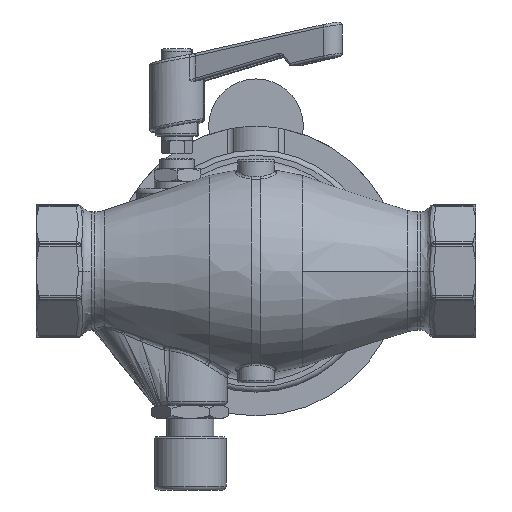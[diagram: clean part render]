
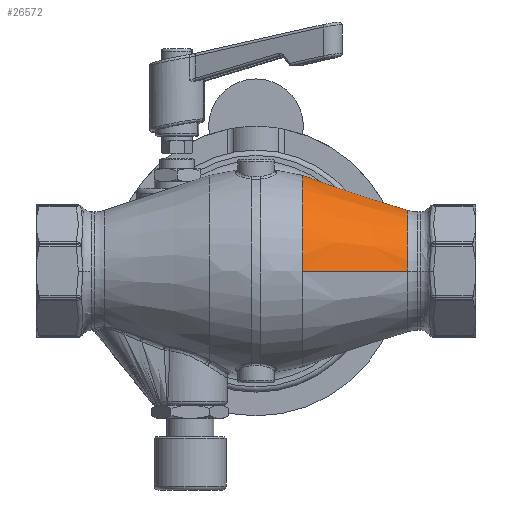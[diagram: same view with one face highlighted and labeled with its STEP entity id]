
A CAD part, front view. The second image highlights one B-rep face of the part: STEP entity #26572.
In plain terms, the highlighted conical face has half-angle 18.5 degrees and reference radius 29.799 mm.
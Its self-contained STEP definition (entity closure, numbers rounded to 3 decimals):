
#5674=CARTESIAN_POINT('',(17.723,14.637,33.413));
#5903=DIRECTION('',(-0.948,0.317,0.));
#5904=VECTOR('',#5903,14.573);
#5905=CARTESIAN_POINT('',(57.647,23.12,
0.));
#5906=LINE('',#5905,#5904);
#5990=DIRECTION('',(-0.948,-0.317,0.));
#5991=VECTOR('',#5990,42.1);
#5992=CARTESIAN_POINT('',(57.647,-23.12,
0.));
#5993=LINE('',#5992,#5991);
#6004=CARTESIAN_POINT('',(57.647,0.,0.));
#6005=DIRECTION('',(1.,0.,0.));
#6006=DIRECTION('',(0.,1.,0.));
#6007=AXIS2_PLACEMENT_3D('',#6004,#6005,#6006);
#6009=CARTESIAN_POINT('',(17.722,-36.479,
0.));
#6010=CARTESIAN_POINT('',(17.722,-36.479,
0.548));
#6011=CARTESIAN_POINT('',(17.722,-36.454,1.645));
#6012=CARTESIAN_POINT('',(17.722,-36.343,3.286));
#6013=CARTESIAN_POINT('',(17.722,-36.158,4.921));
#6014=CARTESIAN_POINT('',(17.722,-35.899,6.545));
#6015=CARTESIAN_POINT('',(17.722,-35.568,8.157));
#6016=CARTESIAN_POINT('',(17.722,-35.164,9.752));
#6017=CARTESIAN_POINT('',(17.722,-34.689,11.327));
#6018=CARTESIAN_POINT('',(17.722,-34.143,12.879));
#6019=CARTESIAN_POINT('',(17.722,-33.528,14.404));
#6020=CARTESIAN_POINT('',(17.722,-32.844,15.901));
#6021=CARTESIAN_POINT('',(17.722,-32.094,17.365));
#6022=CARTESIAN_POINT('',(17.722,-31.279,18.794));
#6023=CARTESIAN_POINT('',(17.722,-30.4,20.185));
#6024=CARTESIAN_POINT('',(17.722,-29.46,21.534));
#6025=CARTESIAN_POINT('',(17.722,-28.459,22.84));
#6026=CARTESIAN_POINT('',(17.722,-27.401,24.1));
#6027=CARTESIAN_POINT('',(17.722,-26.287,25.31));
#6028=CARTESIAN_POINT('',(17.722,-25.119,26.469));
#6029=CARTESIAN_POINT('',(17.722,-23.901,27.575));
#6030=CARTESIAN_POINT('',(17.722,-22.634,28.624));
#6031=CARTESIAN_POINT('',(17.722,-21.32,29.615));
#6032=CARTESIAN_POINT('',(17.722,-19.964,30.546));
#6033=CARTESIAN_POINT('',(17.722,-18.567,31.414));
#6034=CARTESIAN_POINT('',(17.722,-17.132,32.219));
#6035=CARTESIAN_POINT('',(17.722,-15.663,32.959));
#6036=CARTESIAN_POINT('',(17.722,-14.161,33.631));
#6037=CARTESIAN_POINT('',(17.722,-12.631,34.235));
#6038=CARTESIAN_POINT('',(17.722,-11.075,34.77));
#6039=CARTESIAN_POINT('',(17.722,-9.497,35.234));
#6040=CARTESIAN_POINT('',(17.722,-7.899,35.626));
#6041=CARTESIAN_POINT('',(17.722,-6.285,35.946));
#6042=CARTESIAN_POINT('',(17.722,-4.659,36.192));
#6043=CARTESIAN_POINT('',(17.722,-3.023,36.366));
#6044=CARTESIAN_POINT('',(17.722,-1.381,36.465));
#6045=CARTESIAN_POINT('',(17.722,0.264,36.49));
#6046=CARTESIAN_POINT('',(17.722,1.909,36.441));
#6047=CARTESIAN_POINT('',(17.722,3.549,36.318));
#6048=CARTESIAN_POINT('',(17.722,5.183,36.121));
#6049=CARTESIAN_POINT('',(17.722,6.805,35.851));
#6050=CARTESIAN_POINT('',(17.722,8.414,35.508));
#6051=CARTESIAN_POINT('',(17.722,10.005,35.093));
#6052=CARTESIAN_POINT('',(17.722,11.576,34.606));
#6053=CARTESIAN_POINT('',(17.722,13.123,34.05));
#6054=CARTESIAN_POINT('',(17.723,14.135,33.633));
#6055=CARTESIAN_POINT('',(17.723,14.637,33.413));
#6057=CARTESIAN_POINT('',(17.723,14.637,33.413));
#6058=CARTESIAN_POINT('',(18.11,14.718,33.236));
#6059=CARTESIAN_POINT('',(18.902,14.904,32.864));
#6060=CARTESIAN_POINT('',(20.132,15.251,32.25));
#6061=CARTESIAN_POINT('',(21.409,15.669,31.573));
#6062=CARTESIAN_POINT('',(22.732,16.159,30.827));
#6063=CARTESIAN_POINT('',(24.098,16.719,30.006));
#6064=CARTESIAN_POINT('',(25.502,17.344,29.105));
#6065=CARTESIAN_POINT('',(26.934,18.027,28.121));
#6066=CARTESIAN_POINT('',(28.378,18.754,27.057));
#6067=CARTESIAN_POINT('',(29.814,19.511,25.919));
#6068=CARTESIAN_POINT('',(31.223,20.279,24.717));
#6069=CARTESIAN_POINT('',(32.585,21.043,23.462));
#6070=CARTESIAN_POINT('',(33.885,21.789,22.166));
#6071=CARTESIAN_POINT('',(35.111,22.503,20.841));
#6072=CARTESIAN_POINT('',(36.256,23.178,19.498));
#6073=CARTESIAN_POINT('',(37.317,23.81,18.142));
#6074=CARTESIAN_POINT('',(38.281,24.387,16.796));
#6075=CARTESIAN_POINT('',(39.145,24.907,15.472));
#6076=CARTESIAN_POINT('',(39.916,25.373,14.174));
#6077=CARTESIAN_POINT('',(40.601,25.788,12.898));
#6078=CARTESIAN_POINT('',(41.208,26.155,11.644));
#6079=CARTESIAN_POINT('',(41.74,26.478,10.412));
#6080=CARTESIAN_POINT('',(42.203,26.759,9.2));
#6081=CARTESIAN_POINT('',(42.601,27.001,8.007));
#6082=CARTESIAN_POINT('',(42.939,27.205,6.829));
#6083=CARTESIAN_POINT('',(43.22,27.376,5.663));
#6084=CARTESIAN_POINT('',(43.445,27.513,4.51));
#6085=CARTESIAN_POINT('',(43.618,27.617,3.367));
#6086=CARTESIAN_POINT('',(43.739,27.691,2.235));
#6087=CARTESIAN_POINT('',(43.811,27.735,1.113));
#6088=CARTESIAN_POINT('',(43.827,27.744,0.37));
#6089=CARTESIAN_POINT('',(43.827,27.744,0.));
#17742=VERTEX_POINT('',#5674);
#17744=VERTEX_POINT('',#6089);
#17756=VERTEX_POINT('',#6009);
#17761=CARTESIAN_POINT('',(57.647,23.12,0.));
#17762=CARTESIAN_POINT('',(57.647,-23.12,0.));
#17763=VERTEX_POINT('',#17761);
#17764=VERTEX_POINT('',#17762);
#26559=CARTESIAN_POINT('',(37.684,0.,0.));
#26560=DIRECTION('',(-1.,0.,0.));
#26561=DIRECTION('',(0.,1.,0.));
#26562=AXIS2_PLACEMENT_3D('',#26559,#26560,#26561);
#26563=CONICAL_SURFACE('',#26562,29.799,18.5);
#26564=ORIENTED_EDGE('',*,*,#26550,.T.);
#26565=ORIENTED_EDGE('',*,*,#26525,.T.);
#26566=ORIENTED_EDGE('',*,*,#26104,.T.);
#26568=ORIENTED_EDGE('',*,*,#26567,.T.);
#26569=ORIENTED_EDGE('',*,*,#26521,.F.);
#26570=EDGE_LOOP('',(#26564,#26565,#26566,#26568,#26569));
#26571=FACE_OUTER_BOUND('',#26570,.F.);
#26572=ADVANCED_FACE('',(#26571),#26563,.T.);
#6008=CIRCLE('',#6007,23.12);
#6056=B_SPLINE_CURVE_WITH_KNOTS('',3,(#6009,#6010,#6011,#6012,#6013,#6014,#6015,
#6016,#6017,#6018,#6019,#6020,#6021,#6022,#6023,#6024,#6025,#6026,#6027,#6028,
#6029,#6030,#6031,#6032,#6033,#6034,#6035,#6036,#6037,#6038,#6039,#6040,#6041,
#6042,#6043,#6044,#6045,#6046,#6047,#6048,#6049,#6050,#6051,#6052,#6053,#6054,
#6055),.UNSPECIFIED.,.F.,.F.,(4,1,1,1,1,1,1,1,1,1,1,1,1,1,1,1,1,1,1,1,1,1,1,1,1,
1,1,1,1,1,1,1,1,1,1,1,1,1,1,1,1,1,1,1,4),(0.,0.023,
0.045,0.068,0.091,0.114,
0.136,0.159,0.182,0.205,
0.227,0.25,0.273,0.295,0.318,
0.341,0.364,0.386,0.409,
0.432,0.455,0.477,0.5,0.523,
0.545,0.568,0.591,0.614,
0.636,0.659,0.682,0.705,
0.727,0.75,0.773,0.795,0.818,
0.841,0.864,0.886,0.909,
0.932,0.955,0.977,1.),.UNSPECIFIED.);
#6090=B_SPLINE_CURVE_WITH_KNOTS('',3,(#6057,#6058,#6059,#6060,#6061,#6062,#6063,
#6064,#6065,#6066,#6067,#6068,#6069,#6070,#6071,#6072,#6073,#6074,#6075,#6076,
#6077,#6078,#6079,#6080,#6081,#6082,#6083,#6084,#6085,#6086,#6087,#6088,#6089),
.UNSPECIFIED.,.F.,.F.,(4,1,1,1,1,1,1,1,1,1,1,1,1,1,1,1,1,1,1,1,1,1,1,1,1,1,1,1,
1,1,4),(0.,0.033,0.067,0.1,0.133,
0.167,0.2,0.233,0.267,0.3,
0.333,0.367,0.4,0.433,0.467,
0.5,0.533,0.567,0.6,0.633,
0.667,0.7,0.733,0.767,0.8,
0.833,0.867,0.9,0.933,0.967,
1.),.UNSPECIFIED.);
#26104=EDGE_CURVE('',#17756,#17742,#6056,.T.);
#26521=EDGE_CURVE('',#17763,#17744,#5906,.T.);
#26525=EDGE_CURVE('',#17764,#17756,#5993,.T.);
#26550=EDGE_CURVE('',#17763,#17764,#6008,.T.);
#26567=EDGE_CURVE('',#17742,#17744,#6090,.T.);
